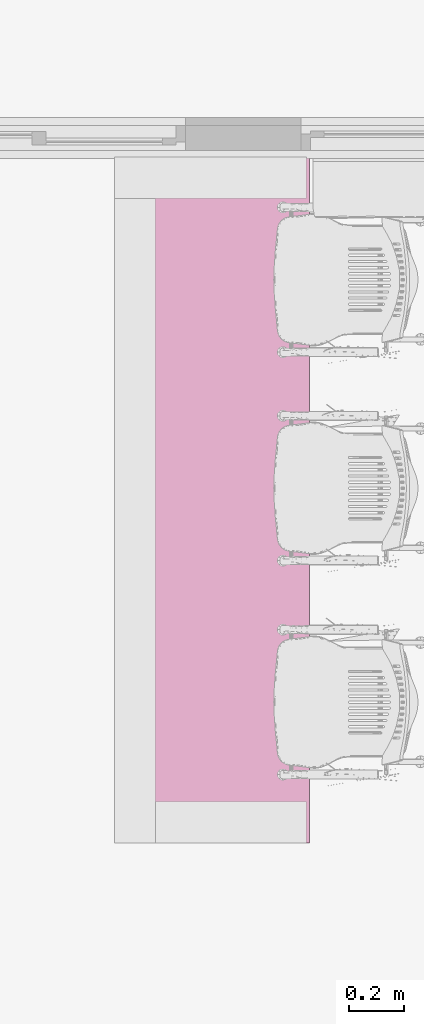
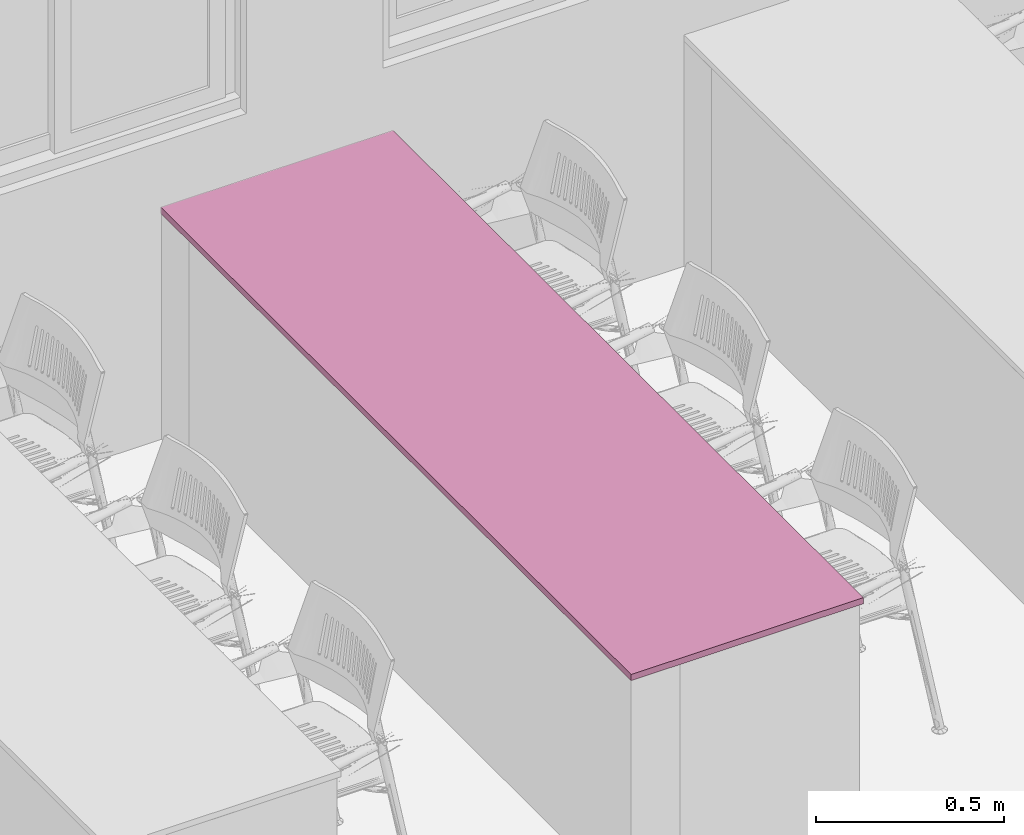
# One storey, part 151 of 155: 1 furnishing.
"""IFC2X3 building model written with IfcOpenShell, lengths in metres."""

from ifc_helpers import new_model, entity, si_unit, converted_unit, derived_unit, direction, frame, frame_2d, origin, place, context, subcontext, project, spatial, rectangle, extrude, source, transform, mapped, type_object, type_shapes, element, save


model = new_model("IFC2X3")

# Units and contexts
model_context = context("Model", 3, precision=1e-05, world=origin(), true_north=direction((6.12303176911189e-17, 1.0)))
body_context = subcontext(model_context, "Body", "Model", "MODEL_VIEW")
ifc_project = project(units=[si_unit("LENGTHUNIT", "METRE"), si_unit("AREAUNIT", "SQUARE_METRE"), si_unit("VOLUMEUNIT", "CUBIC_METRE"), converted_unit("PLANEANGLEUNIT", "DEGREE", entity("IfcRatioMeasure", 0.0174532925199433), si_unit("PLANEANGLEUNIT", "RADIAN"), dimensions=[0, 0, 0, 0, 0, 0, 0]), si_unit("MASSUNIT", "GRAM", prefix="KILO"), derived_unit("MASSDENSITYUNIT", [(si_unit("MASSUNIT", "GRAM", prefix="KILO"), 1), (si_unit("LENGTHUNIT", "METRE"), -3)]), si_unit("TIMEUNIT", "SECOND"), si_unit("FREQUENCYUNIT", "HERTZ"), si_unit("THERMODYNAMICTEMPERATUREUNIT", "DEGREE_CELSIUS"), derived_unit("THERMALTRANSMITTANCEUNIT", [(si_unit("MASSUNIT", "GRAM", prefix="KILO"), 1), (si_unit("THERMODYNAMICTEMPERATUREUNIT", "KELVIN"), -1), (si_unit("TIMEUNIT", "SECOND"), -3)]), derived_unit("VOLUMETRICFLOWRATEUNIT", [(si_unit("LENGTHUNIT", "METRE"), 3), (si_unit("TIMEUNIT", "SECOND"), -1)]), si_unit("ELECTRICCURRENTUNIT", "AMPERE"), si_unit("ELECTRICVOLTAGEUNIT", "VOLT"), si_unit("POWERUNIT", "WATT"), si_unit("FORCEUNIT", "NEWTON", prefix="KILO"), si_unit("ILLUMINANCEUNIT", "LUX"), si_unit("LUMINOUSFLUXUNIT", "LUMEN"), si_unit("LUMINOUSINTENSITYUNIT", "CANDELA"), derived_unit("USERDEFINED", [(si_unit("MASSUNIT", "GRAM", prefix="KILO"), -1), (si_unit("LENGTHUNIT", "METRE"), -2), (si_unit("TIMEUNIT", "SECOND"), 3), (si_unit("LUMINOUSFLUXUNIT", "LUMEN"), 1)]), derived_unit("LINEARVELOCITYUNIT", [(si_unit("LENGTHUNIT", "METRE"), 1), (si_unit("TIMEUNIT", "SECOND"), -1)]), si_unit("PRESSUREUNIT", "PASCAL"), derived_unit("USERDEFINED", [(si_unit("LENGTHUNIT", "METRE"), -2), (si_unit("MASSUNIT", "GRAM", prefix="KILO"), 1), (si_unit("TIMEUNIT", "SECOND"), -2)])], contexts=[model_context])

# Site, building, storey, space
site_placement = place(None, frame((26.9889013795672, -17.5624287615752, 0.0)))
site = spatial("IfcSite", under=ifc_project, at=site_placement, Name="Default", CompositionType="ELEMENT")
building_placement = place(site_placement, origin())
building = spatial("IfcBuilding", under=site, at=building_placement, Name="C. C. L. Monsenhor Antônio Sampaio", CompositionType="ELEMENT")
storey_placement = place(building_placement, frame((0.0, 0.0, 1.19999999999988)))
storey = spatial("IfcBuildingStorey", under=building, at=storey_placement, Name="Nível 1.2", CompositionType="ELEMENT", Elevation=1.19999999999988)
space_placement = place(storey_placement, origin())
space = spatial("IfcSpace", under=storey, at=space_placement, Name="89", CompositionType="ELEMENT", InteriorOrExteriorSpace="INTERNAL")

# Furnishing
furniture_type = type_object("IfcFurnitureType", Name="Bancada")
shared_shape = source(origin(), body_context, "Body", "SweptSolid", [
    extrude(rectangle(XDim=2.5, YDim=0.712499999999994, at=frame_2d((-1.11022302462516e-15, 0.0), x_axis=(1.0, 0.0))), frame((8.88069770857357, -11.5480663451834, 1.92999999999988), z_axis=(0.0, 0.0, 1.0), x_axis=(0.0, -1.0, 0.0)), (0.0, 0.0, 1.0), 0.0200000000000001),
])
type_shapes(furniture_type, [shared_shape])
furnishing_placement = place(space_placement, frame((0.0, 0.0, -1.19999999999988)))
element("IfcFurnishingElement", 1, at=furnishing_placement, inside=space, type_object=furniture_type, Name="Bancada_balcao:Bancada", ObjectType="Bancada", context=body_context, shape_type="MappedRepresentation", body=[
    mapped(shared_shape, transform((0.0, 0.0, 0.0), scale=1.0)),
])

save(model, "model.ifc")
